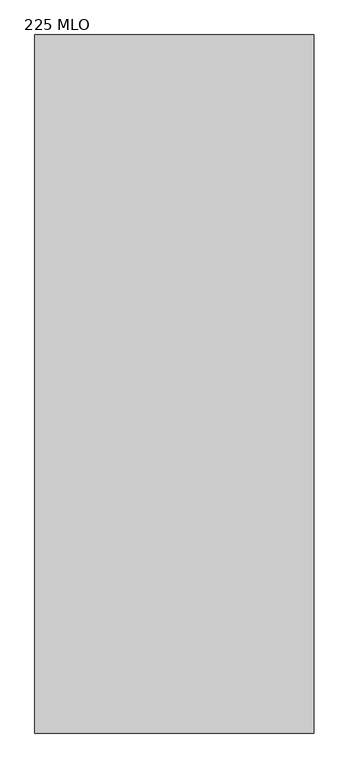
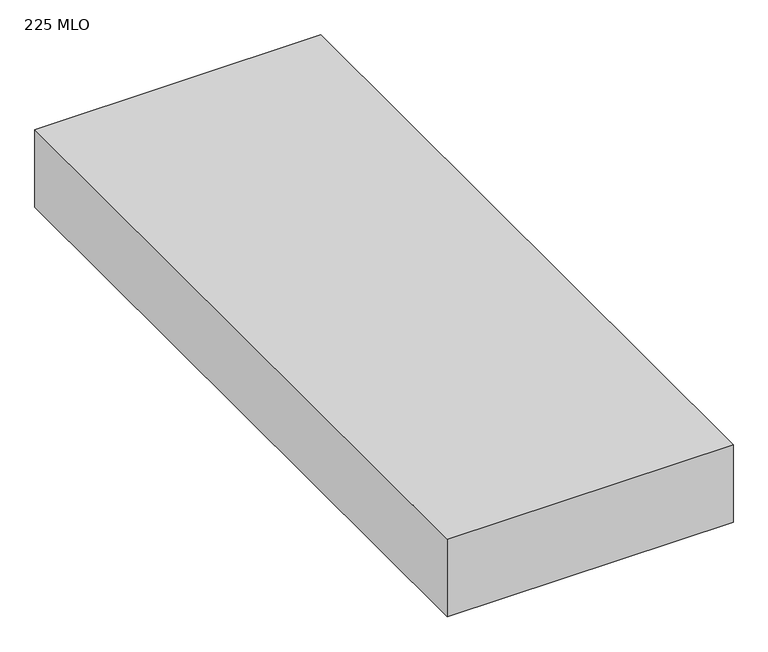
"""IFC4 building model written with IfcOpenShell, lengths in millimetres: proxy geometry, OMAHA - Lighting and Appliance Panelboard - 208V MCB - Surface : 225 MLO."""

import ifcopenshell
import ifcopenshell.guid

model = None  # the IFC model being written
_history = None  # IfcOwnerHistory: only IFC2X3 demands one
_inside = {}  # id of a spatial element -> (the spatial element, [elements in it])
_under = {}  # id of a project, library or spatial element -> (it, [spatial elements below it])
_declared = {}  # id of a project -> (the project, [libraries it declares])
_typed = {}  # id of a type object -> (the type object, [elements of that type])
_made_of = {}  # id of a material, layer set ... -> (it, [elements and type objects made of it])


def new_model(schema):
    """Start an empty IFC model of exactly this schema.

    Asked for "IFC4X3", IfcOpenShell would pick the latest addendum, in which some entities
    have other attributes; the version numbers below select the first issue.
    IFC2X3 requires an IfcOwnerHistory on every rooted entity: one is made here for all.
    """
    global model, _history
    if schema == "IFC4X3":
        model = ifcopenshell.file(schema_version=(4, 3, 0, 0))
    else:
        model = ifcopenshell.file(schema=schema)
    _inside.clear()
    _under.clear()
    _declared.clear()
    _typed.clear()
    _made_of.clear()
    _history = None
    if model.schema == "IFC2X3":
        org = make("IfcOrganization", Name="unknown")
        user = make(
            "IfcPersonAndOrganization",
            ThePerson=make("IfcPerson", FamilyName="unknown"),
            TheOrganization=org,
        )
        app = make(
            "IfcApplication",
            ApplicationDeveloper=org,
            Version="unknown",
            ApplicationFullName="unknown",
            ApplicationIdentifier="unknown",
        )
        _history = make(
            "IfcOwnerHistory",
            OwningUser=user,
            OwningApplication=app,
            ChangeAction="ADDED",
            CreationDate=0,
        )
    return model


def make(cls, **values):
    """One entity of the class cls with the attributes given. An attribute that is None is left unset."""
    return model.create_entity(
        cls, **{name: value for name, value in values.items() if value is not None}
    )


def rooted(cls, **values):
    """An entity with a GlobalId (a new one), such as an element, a storey or a relation."""
    return make(cls, GlobalId=ifcopenshell.guid.new(), OwnerHistory=_history, **values)


def si_unit(unit_type, name, prefix=None):
    """IfcSIUnit, for example si_unit("LENGTHUNIT", "METRE", prefix="MILLI")."""
    return make("IfcSIUnit", UnitType=unit_type, Prefix=prefix, Name=name)


def assignment(units):
    """IfcUnitAssignment: the units of a project."""
    return None if units is None else make("IfcUnitAssignment", Units=units)


def point(xyz):
    """IfcCartesianPoint."""
    return None if xyz is None else make("IfcCartesianPoint", Coordinates=xyz)


def direction(xyz):
    """IfcDirection."""
    return None if xyz is None else make("IfcDirection", DirectionRatios=xyz)


def frame(location, z_axis=None, x_axis=None):
    """IfcAxis2Placement3D, a coordinate frame: its origin and axes. An axis left out is left unset."""
    return make(
        "IfcAxis2Placement3D",
        Location=point(location),
        Axis=direction(z_axis),
        RefDirection=direction(x_axis),
    )


def origin():
    """The frame at (0, 0, 0) with its axes left unset."""
    return frame((0.0, 0.0, 0.0))


def origin_with_axes():
    """The frame at (0, 0, 0) with the z axis (0, 0, 1) and the x axis (1, 0, 0) written out."""
    return frame((0.0, 0.0, 0.0), z_axis=(0.0, 0.0, 1.0), x_axis=(1.0, 0.0, 0.0))


def place(relative_to, where):
    """IfcLocalPlacement: puts the frame where relative to a parent placement (None: the world)."""
    return make(
        "IfcLocalPlacement", PlacementRelTo=relative_to, RelativePlacement=where
    )


def context(
    kind, dimensions, precision=None, world=None, true_north=None, identifier=None
):
    """IfcGeometricRepresentationContext, for example the 3D "Model" context."""
    return make(
        "IfcGeometricRepresentationContext",
        ContextIdentifier=identifier,
        ContextType=kind,
        CoordinateSpaceDimension=dimensions,
        Precision=precision,
        WorldCoordinateSystem=world,
        TrueNorth=true_north,
    )


def project(units=None, contexts=None):
    """IfcProject with its units and contexts."""
    return rooted(
        "IfcProject",
        Name="project",
        RepresentationContexts=contexts,
        UnitsInContext=assignment(units),
    )


def spatial(cls, under=None, at=None, **own):
    """A site, building, storey or space (cls), placed at a placement, below another one or the project."""
    s = rooted(cls, ObjectPlacement=at, **own)
    if under is not None:
        _under.setdefault(under.id(), (under, []))[1].append(s)
    return s


def polyline(points):
    """IfcPolyline through the points."""
    return make("IfcPolyline", Points=[point(p) for p in points])


def outline(outer, holes=None, kind="AREA"):
    """IfcArbitraryClosedProfileDef: a profile drawn as a closed curve; with holes, ...WithVoids."""
    if holes is None:
        return make("IfcArbitraryClosedProfileDef", ProfileType=kind, OuterCurve=outer)
    return make(
        "IfcArbitraryProfileDefWithVoids",
        ProfileType=kind,
        OuterCurve=outer,
        InnerCurves=holes,
    )


def extrude(swept, where, along, depth):
    """IfcExtrudedAreaSolid: the profile swept, set in the frame where, extruded along a direction by depth."""
    return make(
        "IfcExtrudedAreaSolid",
        SweptArea=swept,
        Position=where,
        ExtrudedDirection=direction(along),
        Depth=depth,
    )


def shape(context_of_items, identifier, shape_type, items):
    """IfcShapeRepresentation: the items that make up one representation, for example the "Body"."""
    return make(
        "IfcShapeRepresentation",
        ContextOfItems=context_of_items,
        RepresentationIdentifier=identifier,
        RepresentationType=shape_type,
        Items=items,
    )


def source(mapping_origin, context_of_items, identifier, shape_type, items):
    """IfcRepresentationMap: a shape defined once, which mapped items show again and again."""
    return make(
        "IfcRepresentationMap",
        MappingOrigin=mapping_origin,
        MappedRepresentation=shape(context_of_items, identifier, shape_type, items),
    )


def transform(
    local_origin,
    x_axis=None,
    y_axis=None,
    z_axis=None,
    scale=None,
    scale2=None,
    scale3=None,
    uniform=True,
):
    """IfcCartesianTransformationOperator3D, or its non-uniform kind. x_axis, y_axis, z_axis: its Axis1, 2, 3."""
    if uniform:
        return make(
            "IfcCartesianTransformationOperator3D",
            Axis1=direction(x_axis),
            Axis2=direction(y_axis),
            LocalOrigin=point(local_origin),
            Scale=scale,
            Axis3=direction(z_axis),
        )
    return make(
        "IfcCartesianTransformationOperator3DnonUniform",
        Axis1=direction(x_axis),
        Axis2=direction(y_axis),
        LocalOrigin=point(local_origin),
        Scale=scale,
        Axis3=direction(z_axis),
        Scale2=scale2,
        Scale3=scale3,
    )


def mapped(mapping_source, mapping_target):
    """IfcMappedItem: shows the shape of a source again, moved by a transform."""
    return make(
        "IfcMappedItem", MappingSource=mapping_source, MappingTarget=mapping_target
    )


def made_of(thing, what):
    """Note that an element or type object is made of a material, layer set ...; save() writes the relation."""
    if what is not None:
        _made_of.setdefault(what.id(), (what, []))[1].append(thing)
    return thing


def element(
    cls,
    number,
    at=None,
    inside=None,
    cuts=None,
    type_object=None,
    material=None,
    context=None,
    identifier="Body",
    shape_type=None,
    held_by="IfcProductDefinitionShape",
    body=None,
    shapes=None,
    **own,
):
    """One element of the class cls, such as IfcWall. Its Tag is "e" and its number.

    at: its placement. inside: the storey or other place that contains it. cuts: it is an
    opening in that element (IfcRelVoidsElement). A single representation is given by context,
    identifier, shape_type and body (its items); several are given by shapes. held_by: the class
    of the entity that holds the representations. save() writes the other relations.
    """
    e = rooted(cls, Tag="e%d" % number, ObjectPlacement=at, **own)
    if body is not None:
        shapes = [shape(context, identifier, shape_type, body)]
    if shapes is not None:
        e.Representation = make(held_by, Representations=shapes)
    if inside is not None:
        _inside.setdefault(inside.id(), (inside, []))[1].append(e)
    if cuts is not None:
        rooted(
            "IfcRelVoidsElement", RelatingBuildingElement=cuts, RelatedOpeningElement=e
        )
    if type_object is not None:
        _typed.setdefault(type_object.id(), (type_object, []))[1].append(e)
    return made_of(e, material)


def aggregate(whole, parts):
    """IfcRelAggregates: a whole, such as a stair, and the parts it consists of."""
    return rooted("IfcRelAggregates", RelatingObject=whole, RelatedObjects=parts)


def save(model, path):
    """Write the relations noted so far, then the file.

    IfcRelAggregates (storeys below a building ...), IfcRelContainedInSpatialStructure (elements
    in a storey), IfcRelDefinesByType, IfcRelAssociatesMaterial and IfcRelDeclares: one each for
    every whole, place, type object, material and project.
    """
    for whole, parts in _under.values():
        aggregate(whole, parts)
    for where, things in _inside.values():
        rooted(
            "IfcRelContainedInSpatialStructure",
            RelatedElements=things,
            RelatingStructure=where,
        )
    for kind, things in _typed.values():
        rooted("IfcRelDefinesByType", RelatedObjects=things, RelatingType=kind)
    for what, things in _made_of.values():
        rooted("IfcRelAssociatesMaterial", RelatedObjects=things, RelatingMaterial=what)
    for by, libraries in _declared.values():
        rooted("IfcRelDeclares", RelatingContext=by, RelatedDefinitions=libraries)
    model.write(path)


def proxy_225_mlo_d67b81b6(model_context):
    return source(origin(), model_context, "Body", "SweptSolid", [
        extrude(outline(polyline([(349.2594706, 398.8943297), (349.2594706, -871.1056703), (-158.7405294, -871.1056703), (-158.7405294, 398.8943297), (349.2594706, 398.8943297)])), origin_with_axes(), (0.0, 0.0, 1.0), 146.05),
    ])


if __name__ == "__main__":
    model = new_model("IFC4")
    model_context = context("Model", 3, world=origin())
    ifc_project = project(units=[si_unit("LENGTHUNIT", "METRE", prefix="MILLI")], contexts=[model_context])
    site = spatial("IfcSite", under=ifc_project)
    building = spatial("IfcBuilding", under=site)
    placement = place(None, origin())
    proxy_225_mlo_shape = proxy_225_mlo_d67b81b6(model_context)
    element("IfcBuildingElementProxy", 1, Name="OMAHA - Lighting and Appliance Panelboard - 208V MCB - Surface : 225 MLO", ObjectType="OMAHA - Lighting and Appliance Panelboard - 208V MCB - Surface : 225 MLO", at=placement, inside=building, context=model_context, shape_type="MappedRepresentation", body=[
        mapped(proxy_225_mlo_shape, transform((0.0, 0.0, 0.0), x_axis=(1.0, 0.0, 0.0), y_axis=(0.0, 1.0, 0.0), z_axis=(0.0, 0.0, 1.0))),
    ])
    save(model, "model.ifc")
